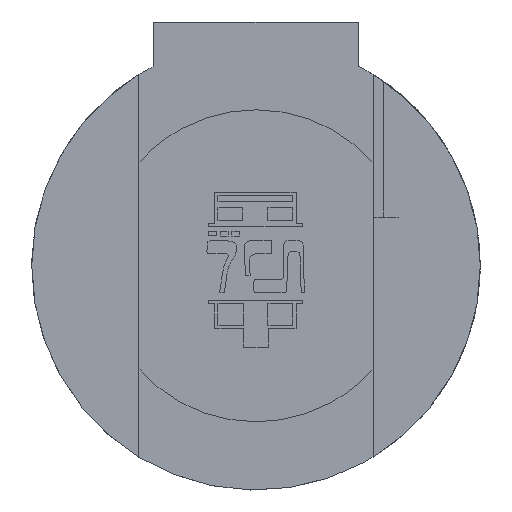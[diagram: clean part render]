
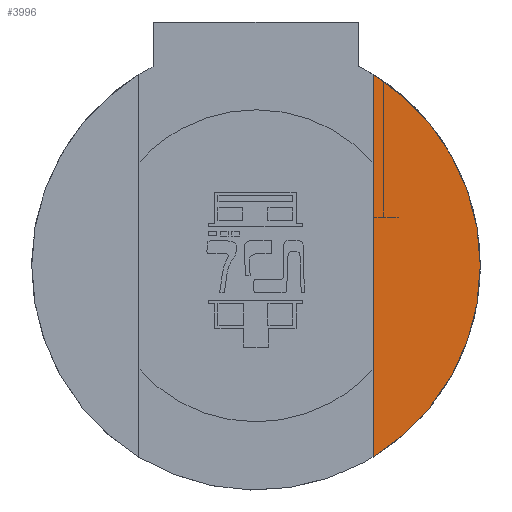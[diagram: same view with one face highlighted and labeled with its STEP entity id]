
A CAD part, left-side view. The second image highlights one B-rep face of the part: STEP entity #3996.
In plain terms, the highlighted planar face has unit normal (-1, 0, 0).
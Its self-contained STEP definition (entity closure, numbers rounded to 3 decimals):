
#3545=CARTESIAN_POINT('Vertex',(-5.,-6.,9.811)) ;
#3548=CARTESIAN_POINT('Axis2P3D Location',(-5.,0.,0.)) ;
#3552=CARTESIAN_POINT('Vertex',(-5.,-6.,-9.811)) ;
#3982=CARTESIAN_POINT('Axis2P3D Location',(-5.,0.,0.)) ;
#3987=CARTESIAN_POINT('Line Origine',(-5.,-6.,0.)) ;
#3549=DIRECTION('Axis2P3D Direction',(-1.,0.,0.)) ;
#3983=DIRECTION('Axis2P3D Direction',(-1.,0.,0.)) ;
#3984=DIRECTION('Axis2P3D XDirection',(0.,-1.,0.)) ;
#3988=DIRECTION('Vector Direction',(0.,0.,-1.)) ;
#3550=AXIS2_PLACEMENT_3D('Circle Axis2P3D',#3548,#3549,$) ;
#3985=AXIS2_PLACEMENT_3D('Plane Axis2P3D',#3982,#3983,#3984) ;
#3993=ORIENTED_EDGE('',*,*,#3991,.T.) ;
#3994=ORIENTED_EDGE('',*,*,#3554,.T.) ;
#3989=VECTOR('Line Direction',#3988,1.) ;
#3996=ADVANCED_FACE('PartBody',(#3995),#3986,.T.) ;
#3551=CIRCLE('generated circle',#3550,11.5) ;
#3554=EDGE_CURVE('',#3553,#3546,#3551,.T.) ;
#3991=EDGE_CURVE('',#3546,#3553,#3990,.T.) ;
#3992=EDGE_LOOP('',(#3993,#3994)) ;
#3995=FACE_OUTER_BOUND('',#3992,.T.) ;
#3990=LINE('Line',#3987,#3989) ;
#3986=PLANE('',#3985) ;
#3546=VERTEX_POINT('',#3545) ;
#3553=VERTEX_POINT('',#3552) ;
